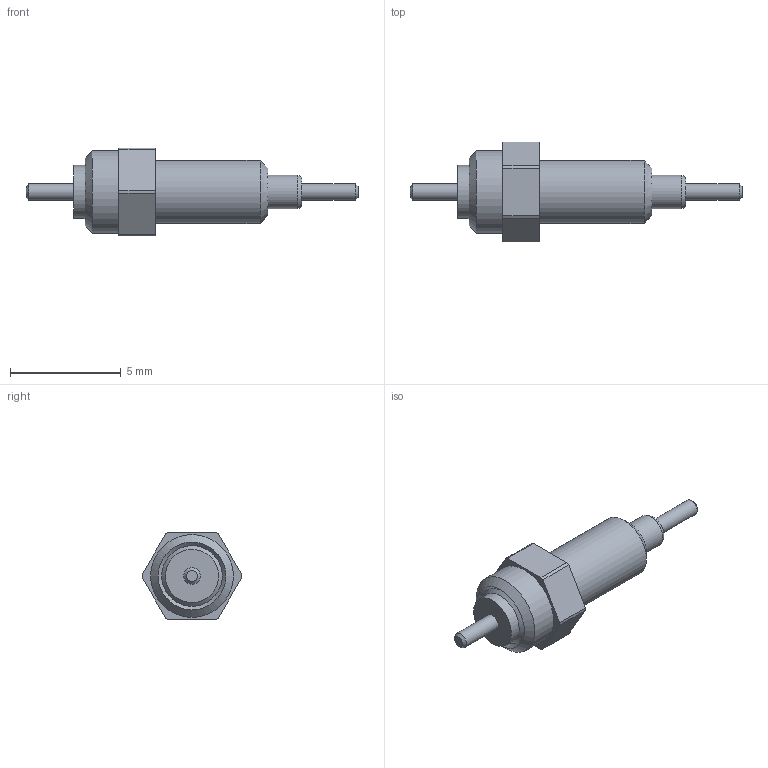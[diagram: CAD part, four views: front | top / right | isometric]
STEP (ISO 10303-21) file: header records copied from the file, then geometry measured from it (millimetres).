
FILE_DESCRIPTION(/* description */ (''),/* implementation_level */ '2;1');
FILE_NAME(/* name */ '\\Snap1\dwgs\Customer 3D Models\570\570-0011-01 Customer model.stp',/* time_stamp */ '2017-01-04T14:06:50+00:00',/* author */ ('paulk'),/* organization */ (''),/* preprocessor_version */ 'ST-DEVELOPER v15.2',/* originating_system */ 'Autodesk Inventor 2014',/* authorisation */ '');
FILE_SCHEMA (('CONFIG_CONTROL_DESIGN'));
Length unit declared in the file: millimetre
Products named in the file (1): 570-0011-01 Customer model
Bounding box: 14.99 x 4.5 x 3.96 mm (x, y, z)
Volume: 77 mm3; surface area: 130.8 mm2
Topology: 1 solids, 1 shells, 32 faces, 72 edges, 47 vertices
Faces by surface type: plane 13, cylinder 12, cone 7
Full cylindrical faces by diameter (mm): 0.737 x2, 1.524 x1, 2.4 x1, 2.845 x1, 3.734 x1
Entity records: 859 total; most frequent: DIRECTION 150, CARTESIAN_POINT 129, ORIENTED_EDGE 108, AXIS2_PLACEMENT_3D 63, EDGE_CURVE 54, EDGE_LOOP 50, VERTEX_POINT 42, STYLED_ITEM 33
